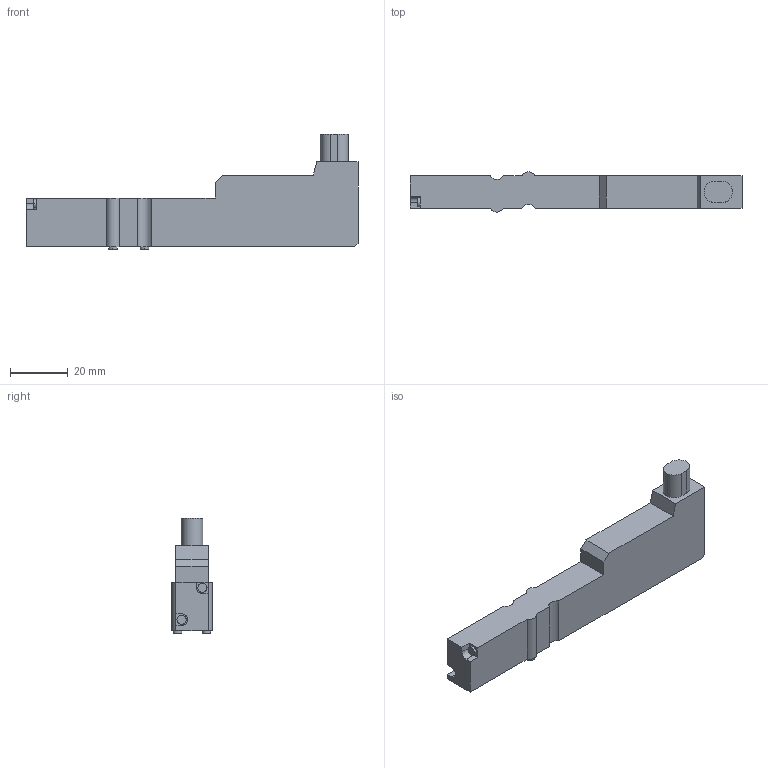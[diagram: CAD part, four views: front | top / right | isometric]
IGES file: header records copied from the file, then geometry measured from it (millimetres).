
Start section:  PTC IGES file: 0820062051.igs
Global section: file name: 0820062051.igs; native system: Creo Elements/Pro by Parametric Technology Corporation; preprocessor: 2012421; author: vol1hc; organization: Unknown; date: 20150727.161719; units: millimetre
Bounding box: 115.35 x 13.98 x 40.2 mm (x, y, z)
Surface area: 8564.2 mm2 (no closed solid volume)
Topology: 0 solids, 0 shells, 79 faces, 404 edges, 404 vertices
Faces by surface type: bspline 57, revolution 22
